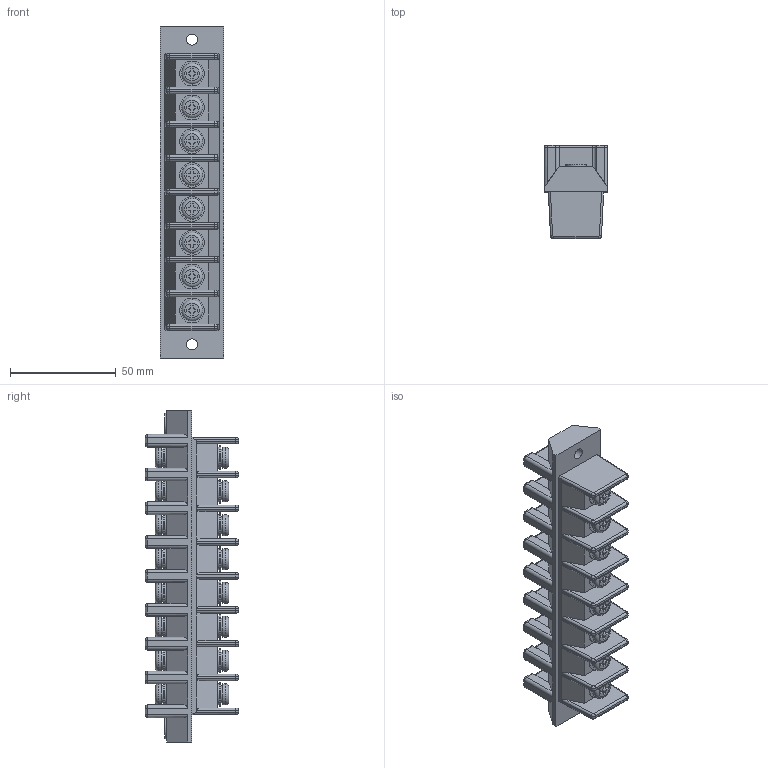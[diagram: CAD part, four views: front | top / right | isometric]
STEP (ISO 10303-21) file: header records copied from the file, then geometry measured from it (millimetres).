
FILE_DESCRIPTION(/* description */ ('Alibre Inc.'),/* implementation_level */ '2;1');
FILE_NAME(/* name */ 'export-392D6839-BC8A-4D5F-929B-1E7E13A7931D',/* time_stamp */ '2025-02-21T13:26:40+09:00',/* author */ (''),/* organization */ (''),/* preprocessor_version */ 'ST-DEVELOPER v17',/* originating_system */ 'Alibre',/* authorisation */ '');
FILE_SCHEMA (('CONFIG_CONTROL_DESIGN'));
Length unit declared in the file: millimetre
Bounding box: 30 x 44 x 157 mm (x, y, z)
Volume: 106540 mm3; surface area: 36123.7 mm2
Topology: 1 solids, 25 shells, 1051 faces, 2424 edges, 1506 vertices
Faces by surface type: plane 491, cylinder 404, torus 124, cone 32
Full cylindrical faces by diameter (mm): 4.4 x16, 4.6 x16, 5 x24, 5.2 x2, 8 x16, 9.9 x18, 10 x16, 11.7 x16
Entity records: 27738 total; most frequent: CARTESIAN_POINT 5069, ORIENTED_EDGE 4468, DIRECTION 4413, EDGE_CURVE 2234, AXIS2_PLACEMENT_3D 1873, VERTEX_POINT 1488, EDGE_LOOP 1342, FACE_BOUND 1342
